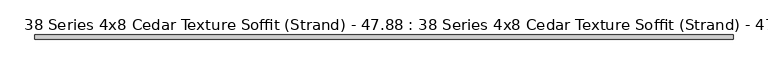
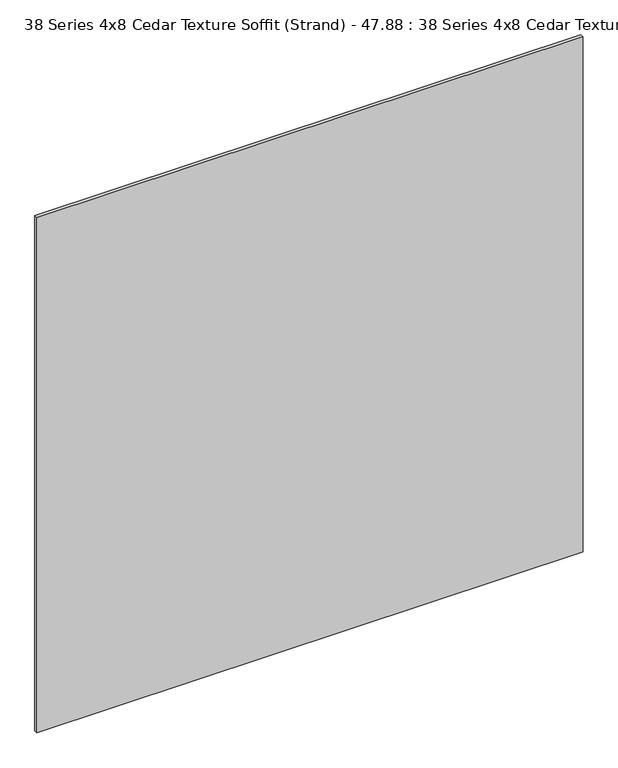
"""IFC4 building model written with IfcOpenShell, lengths in millimetres: proxy geometry, 38 Series 4x8 Cedar Texture Soffit (Strand) - 47.88 : 38 Series 4x8 Cedar Texture Soffit (Strand) - 47.88."""

from ifc_helpers import new_model, si_unit, frame, origin, place, context, project, spatial, polyline, outline, extrude, source, transform, mapped, element, save


def proxy_38_series_4x8_cedar_texture_soffit_strand_47_88_38_12f310ea(model_context):
    return source(origin(), model_context, "Body", "SweptSolid", [
        extrude(outline(polyline([(1219.2, -8.001), (0.0, -8.001), (0.0, 0.0), (1219.2, 0.0), (1219.2, -8.001)])), frame((0.0, 0.0, -1216.152), z_axis=(0.0, 0.0, 1.0), x_axis=(1.0, 0.0, 0.0)), (0.0, 0.0, 1.0), 1216.152),
    ])


if __name__ == "__main__":
    model = new_model("IFC4")
    model_context = context("Model", 3, world=origin())
    ifc_project = project(units=[si_unit("LENGTHUNIT", "METRE", prefix="MILLI")], contexts=[model_context])
    site = spatial("IfcSite", under=ifc_project)
    building = spatial("IfcBuilding", under=site)
    placement = place(None, origin())
    proxy_38_series_4x8_cedar_texture_soffit_strand_47_88_38_shape = proxy_38_series_4x8_cedar_texture_soffit_strand_47_88_38_12f310ea(model_context)
    element("IfcBuildingElementProxy", 1, Name="38 Series 4x8 Cedar Texture Soffit (Strand) - 47.88 : 38 Series 4x8 Cedar Texture Soffit (Strand) - 47.88", ObjectType="38 Series 4x8 Cedar Texture Soffit (Strand) - 47.88 : 38 Series 4x8 Cedar Texture Soffit (Strand) - 47.88", at=placement, inside=building, context=model_context, shape_type="MappedRepresentation", body=[
        mapped(proxy_38_series_4x8_cedar_texture_soffit_strand_47_88_38_shape, transform((0.0, 0.0, 0.0), x_axis=(1.0, 0.0, 0.0), y_axis=(0.0, 1.0, 0.0), z_axis=(0.0, 0.0, 1.0))),
    ])
    save(model, "model.ifc")
